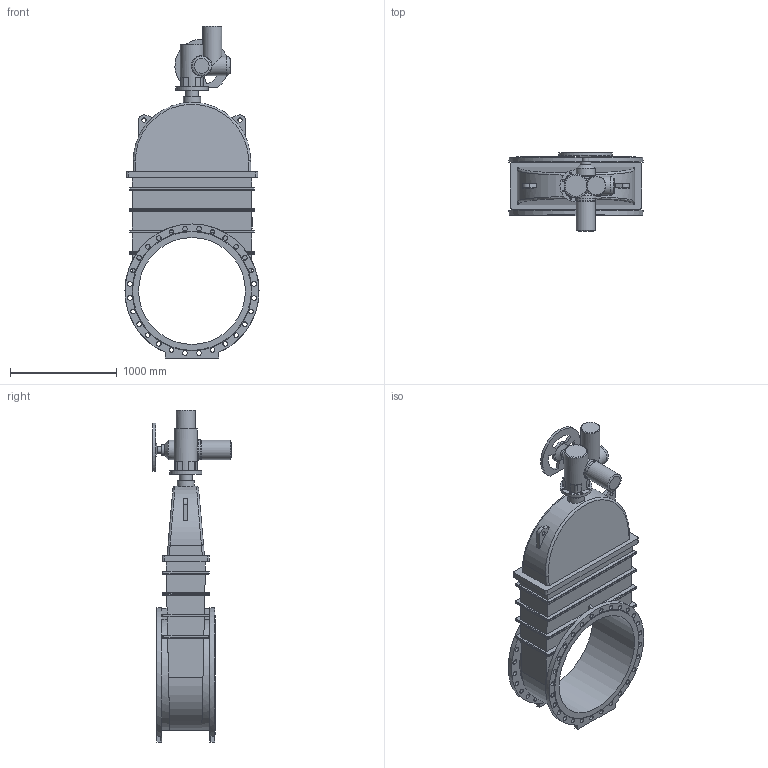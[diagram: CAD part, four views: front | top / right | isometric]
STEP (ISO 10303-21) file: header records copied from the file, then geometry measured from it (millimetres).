
FILE_DESCRIPTION(('STEP AP203'), '1');
FILE_NAME('青溻桄赅 47GVA.Z DN1000 PN16 +MT903.A100', '', ('UNSPECIFIED'), ('UNSPECIFIED'), 'ASCON STEP Converter 1.6', 'ASCON Math Kernel', '');
FILE_SCHEMA(('CONFIG_CONTROL_DESIGN'));
Length unit declared in the file: millimetre
Bounding box: 1255 x 733 x 3108.5 mm (x, y, z)
Volume: 618782401.4 mm3; surface area: 11811578.4 mm2
Topology: 2 solids, 2 shells, 384 faces, 979 edges, 626 vertices
Faces by surface type: cylinder 187, plane 151, bspline 34, cone 11, torus 1
Full cylindrical faces by diameter (mm): 17.5 x4, 18 x8, 20 x4, 40 x2, 43 x56, 50 x1, 60 x1, 100 x1, 120 x1, 130 x1, 140 x1, 160 x1, 180 x4, 187 x1, 191 x1, 200 x1, 220 x1, 300 x1, 1000 x1, 1255 x2
Entity records: 18914 total; most frequent: CARTESIAN_POINT 6769, DIRECTION 1799, ORIENTED_EDGE 1748, EDGE_CURVE 874, AXIS2_PLACEMENT_3D 695, EDGE_LOOP 663, VERTEX_POINT 625, FACE_BOUND 467
